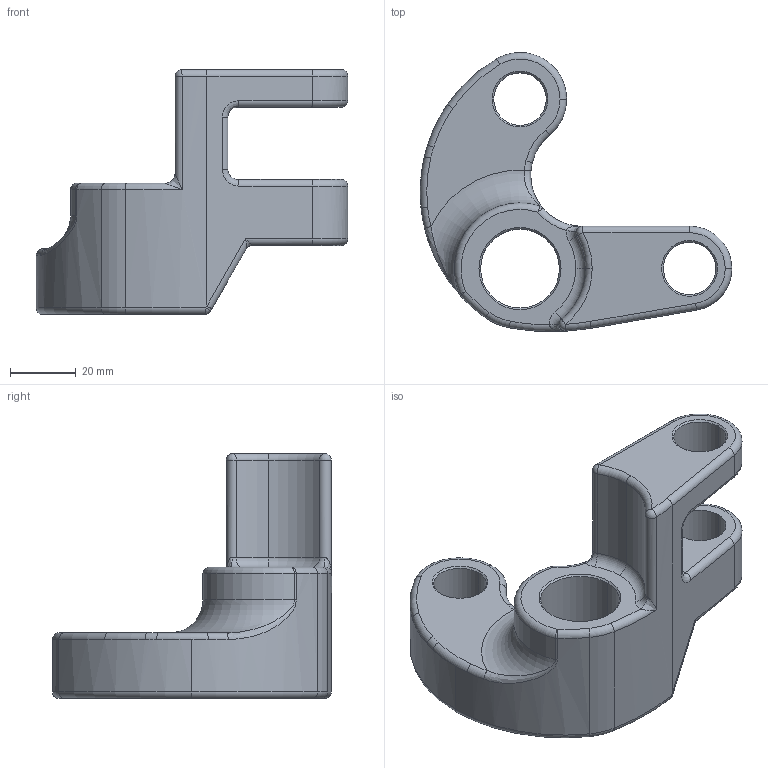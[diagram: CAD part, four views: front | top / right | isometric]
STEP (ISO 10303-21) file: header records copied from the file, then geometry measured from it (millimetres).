
FILE_DESCRIPTION (( 'STEP AP203' ), '1' );
FILE_NAME ('YYDK-500-0062 左门支架（500T）.STEP', '2026-03-14T06:53:19', ( 'Windows 用户' ), ( '' ), 'SwSTEP 2.0', 'SolidWorks 2020', '' );
FILE_SCHEMA (( 'CONFIG_CONTROL_DESIGN' ));
Length unit declared in the file: millimetre
Products named in the file (1): YYDK-500-0062 左门支架（500T）
Bounding box: 94.93 x 85.04 x 74.62 mm (x, y, z)
Volume: 108518.4 mm3; surface area: 25334.9 mm2
Topology: 1 solids, 1 shells, 119 faces, 282 edges, 158 vertices
Faces by surface type: cylinder 42, torus 37, cone 12, plane 11, bspline 11, sphere 6
Entity records: 4121 total; most frequent: CARTESIAN_POINT 1316, DIRECTION 644, ORIENTED_EDGE 548, AXIS2_PLACEMENT_3D 284, EDGE_CURVE 274, CIRCLE 175, VERTEX_POINT 157, EDGE_LOOP 127
